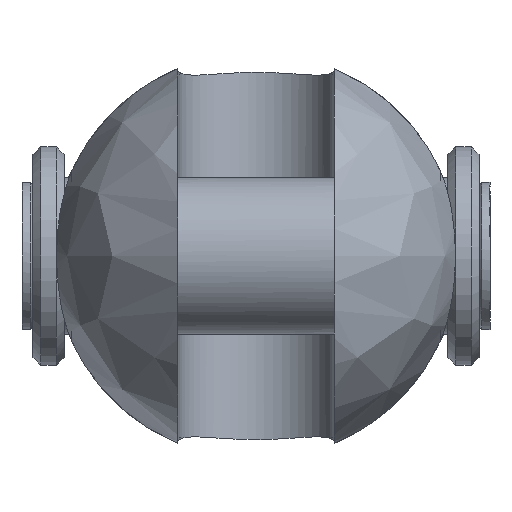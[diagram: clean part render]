
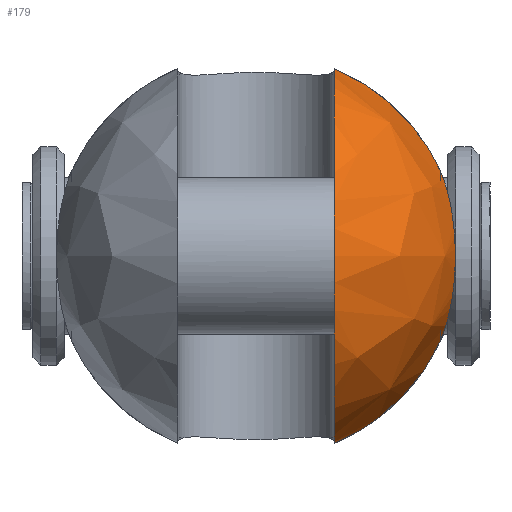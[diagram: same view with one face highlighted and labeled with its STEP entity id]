
A CAD part, left-side view. The second image highlights one B-rep face of the part: STEP entity #179.
In plain terms, the highlighted free-form (B-spline) face has degree [2, 2] with [9, 5] control points.
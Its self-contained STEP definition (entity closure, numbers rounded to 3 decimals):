
#179=ADVANCED_FACE('',(#320),#2417,.T.);
#320=FACE_OUTER_BOUND('',#481,.T.);
#481=EDGE_LOOP('',(#1190,#1191,#1192,#1193,#1194,#1195));
#1190=ORIENTED_EDGE('',*,*,#1579,.T.);
#1191=ORIENTED_EDGE('',*,*,#1601,.F.);
#1192=ORIENTED_EDGE('',*,*,#1617,.T.);
#1193=ORIENTED_EDGE('',*,*,#1619,.T.);
#1194=ORIENTED_EDGE('',*,*,#1618,.T.);
#1195=ORIENTED_EDGE('',*,*,#1595,.F.);
#1579=EDGE_CURVE('',#2249,#2248,#1979,.T.);
#1595=EDGE_CURVE('',#2249,#2261,#1989,.T.);
#1601=EDGE_CURVE('',#2266,#2248,#1990,.T.);
#1617=EDGE_CURVE('',#2266,#2273,#2000,.T.);
#1618=EDGE_CURVE('',#2274,#2261,#2001,.T.);
#1619=EDGE_CURVE('',#2273,#2274,#1786,.T.);
#1786=B_SPLINE_CURVE_WITH_KNOTS('',3,(#6066,#6067,#6068,#6069,#6070,#6071,
#6072,#6073,#6074,#6075,#6076,#6077,#6078,#6079),.UNSPECIFIED.,.F.,.F.,
(4,2,2,2,2,2,4),(-12.357,-11.17,-8.674,
-6.178,-3.683,-1.187,0.),.UNSPECIFIED.);
#1979=(
BOUNDED_CURVE()
B_SPLINE_CURVE(2,(#5899,#5900,#5901,#5902,#5903),.UNSPECIFIED.,.F.,.F.)
B_SPLINE_CURVE_WITH_KNOTS((3,2,3),(-37.699,-18.85,
0.),.UNSPECIFIED.)
CURVE()
GEOMETRIC_REPRESENTATION_ITEM()
RATIONAL_B_SPLINE_CURVE((1.,0.707,1.,0.707,1.))
REPRESENTATION_ITEM('')
);
#1989=(
BOUNDED_CURVE()
B_SPLINE_CURVE(2,(#5977,#5978,#5979),.UNSPECIFIED.,.F.,.F.)
B_SPLINE_CURVE_WITH_KNOTS((3,3),(0.,9.609),.UNSPECIFIED.)
CURVE()
GEOMETRIC_REPRESENTATION_ITEM()
RATIONAL_B_SPLINE_CURVE((1.,0.932,1.))
REPRESENTATION_ITEM('')
);
#1990=(
BOUNDED_CURVE()
B_SPLINE_CURVE(2,(#5998,#5999,#6000),.UNSPECIFIED.,.F.,.F.)
B_SPLINE_CURVE_WITH_KNOTS((3,3),(0.,9.609),.UNSPECIFIED.)
CURVE()
GEOMETRIC_REPRESENTATION_ITEM()
RATIONAL_B_SPLINE_CURVE((1.,0.932,1.))
REPRESENTATION_ITEM('')
);
#2000=(
BOUNDED_CURVE()
B_SPLINE_CURVE(2,(#6060,#6061,#6062),.UNSPECIFIED.,.F.,.F.)
B_SPLINE_CURVE_WITH_KNOTS((3,3),(-0.318,0.),.UNSPECIFIED.)
CURVE()
GEOMETRIC_REPRESENTATION_ITEM()
RATIONAL_B_SPLINE_CURVE((1.,1.,1.))
REPRESENTATION_ITEM('')
);
#2001=(
BOUNDED_CURVE()
B_SPLINE_CURVE(2,(#6063,#6064,#6065),.UNSPECIFIED.,.F.,.F.)
B_SPLINE_CURVE_WITH_KNOTS((3,3),(-0.318,0.),.UNSPECIFIED.)
CURVE()
GEOMETRIC_REPRESENTATION_ITEM()
RATIONAL_B_SPLINE_CURVE((1.,1.,1.))
REPRESENTATION_ITEM('')
);
#2248=VERTEX_POINT('',#5767);
#2249=VERTEX_POINT('',#5768);
#2261=VERTEX_POINT('',#5780);
#2266=VERTEX_POINT('',#5785);
#2273=VERTEX_POINT('',#5792);
#2274=VERTEX_POINT('',#5793);
#2417=(
BOUNDED_SURFACE()
B_SPLINE_SURFACE(2,2,((#5481,#5482,#5483,#5484,#5485),(#5486,#5487,#5488,
#5489,#5490),(#5491,#5492,#5493,#5494,#5495),(#5496,#5497,#5498,#5499,#5500),
(#5501,#5502,#5503,#5504,#5505),(#5506,#5507,#5508,#5509,#5510),(#5511,
#5512,#5513,#5514,#5515),(#5516,#5517,#5518,#5519,#5520),(#5521,#5522,#5523,
#5524,#5525)),.UNSPECIFIED.,.T.,.F.,.F.)
B_SPLINE_SURFACE_WITH_KNOTS((3,2,2,2,3),(3,2,3),(0.,1.571,3.142,
4.712,6.283),(-1.571,0.,1.571),
 .UNSPECIFIED.)
GEOMETRIC_REPRESENTATION_ITEM()
RATIONAL_B_SPLINE_SURFACE(((1.,0.707,1.,0.707,1.),
(0.707,0.5,0.707,0.5,0.707),(1.,0.707,
1.,0.707,1.),(0.707,0.5,0.707,0.5,0.707),
(1.,0.707,1.,0.707,1.),(0.707,0.5,0.707,
0.5,0.707),(1.,0.707,1.,0.707,1.),(0.707,
0.5,0.707,0.5,0.707),(1.,0.707,1.,0.707,
1.)))
REPRESENTATION_ITEM('')
SURFACE()
);
#5481=CARTESIAN_POINT('',(-18.5,0.,0.));
#5482=CARTESIAN_POINT('',(-18.5,13.,0.));
#5483=CARTESIAN_POINT('',(-5.5,13.,0.));
#5484=CARTESIAN_POINT('',(7.5,13.,0.));
#5485=CARTESIAN_POINT('',(7.5,0.,0.));
#5486=CARTESIAN_POINT('',(-18.5,0.,0.));
#5487=CARTESIAN_POINT('',(-18.5,13.,13.));
#5488=CARTESIAN_POINT('',(-5.5,13.,13.));
#5489=CARTESIAN_POINT('',(7.5,13.,13.));
#5490=CARTESIAN_POINT('',(7.5,0.,0.));
#5491=CARTESIAN_POINT('',(-18.5,0.,0.));
#5492=CARTESIAN_POINT('',(-18.5,0.,13.));
#5493=CARTESIAN_POINT('',(-5.5,0.,13.));
#5494=CARTESIAN_POINT('',(7.5,0.,13.));
#5495=CARTESIAN_POINT('',(7.5,0.,0.));
#5496=CARTESIAN_POINT('',(-18.5,0.,0.));
#5497=CARTESIAN_POINT('',(-18.5,-13.,13.));
#5498=CARTESIAN_POINT('',(-5.5,-13.,13.));
#5499=CARTESIAN_POINT('',(7.5,-13.,13.));
#5500=CARTESIAN_POINT('',(7.5,0.,0.));
#5501=CARTESIAN_POINT('',(-18.5,0.,0.));
#5502=CARTESIAN_POINT('',(-18.5,-13.,0.));
#5503=CARTESIAN_POINT('',(-5.5,-13.,0.));
#5504=CARTESIAN_POINT('',(7.5,-13.,0.));
#5505=CARTESIAN_POINT('',(7.5,0.,0.));
#5506=CARTESIAN_POINT('',(-18.5,0.,0.));
#5507=CARTESIAN_POINT('',(-18.5,-13.,-13.));
#5508=CARTESIAN_POINT('',(-5.5,-13.,-13.));
#5509=CARTESIAN_POINT('',(7.5,-13.,-13.));
#5510=CARTESIAN_POINT('',(7.5,0.,0.));
#5511=CARTESIAN_POINT('',(-18.5,0.,0.));
#5512=CARTESIAN_POINT('',(-18.5,0.,-13.));
#5513=CARTESIAN_POINT('',(-5.5,0.,-13.));
#5514=CARTESIAN_POINT('',(7.5,0.,-13.));
#5515=CARTESIAN_POINT('',(7.5,0.,0.));
#5516=CARTESIAN_POINT('',(-18.5,0.,0.));
#5517=CARTESIAN_POINT('',(-18.5,13.,-13.));
#5518=CARTESIAN_POINT('',(-5.5,13.,-13.));
#5519=CARTESIAN_POINT('',(7.5,13.,-13.));
#5520=CARTESIAN_POINT('',(7.5,0.,0.));
#5521=CARTESIAN_POINT('',(-18.5,0.,0.));
#5522=CARTESIAN_POINT('',(-18.5,13.,0.));
#5523=CARTESIAN_POINT('',(-5.5,13.,0.));
#5524=CARTESIAN_POINT('',(7.5,13.,0.));
#5525=CARTESIAN_POINT('',(7.5,0.,0.));
#5767=CARTESIAN_POINT('',(-5.5,-5.,-12.));
#5768=CARTESIAN_POINT('',(-5.5,-5.,12.));
#5780=CARTESIAN_POINT('',(-5.5,-11.779,5.5));
#5785=CARTESIAN_POINT('',(-5.5,-11.779,-5.5));
#5792=CARTESIAN_POINT('',(-5.818,-11.779,-5.491));
#5793=CARTESIAN_POINT('',(-5.818,-11.779,5.491));
#5899=CARTESIAN_POINT('',(-5.5,-5.,12.));
#5900=CARTESIAN_POINT('',(-17.5,-5.,12.));
#5901=CARTESIAN_POINT('',(-17.5,-5.,0.));
#5902=CARTESIAN_POINT('',(-17.5,-5.,-12.));
#5903=CARTESIAN_POINT('',(-5.5,-5.,-12.));
#5977=CARTESIAN_POINT('',(-5.5,-5.,12.));
#5978=CARTESIAN_POINT('',(-5.5,-9.649,10.063));
#5979=CARTESIAN_POINT('',(-5.5,-11.779,5.5));
#5998=CARTESIAN_POINT('',(-5.5,-11.779,-5.5));
#5999=CARTESIAN_POINT('',(-5.5,-9.649,-10.063));
#6000=CARTESIAN_POINT('',(-5.5,-5.,-12.));
#6060=CARTESIAN_POINT('',(-5.5,-11.779,-5.5));
#6061=CARTESIAN_POINT('',(-5.659,-11.779,-5.5));
#6062=CARTESIAN_POINT('',(-5.818,-11.779,-5.491));
#6063=CARTESIAN_POINT('',(-5.818,-11.779,5.491));
#6064=CARTESIAN_POINT('',(-5.659,-11.779,5.5));
#6065=CARTESIAN_POINT('',(-5.5,-11.779,5.5));
#6066=CARTESIAN_POINT('',(-5.818,-11.779,-5.491));
#6067=CARTESIAN_POINT('',(-6.077,-11.9,-5.217));
#6068=CARTESIAN_POINT('',(-6.314,-12.009,-4.926));
#6069=CARTESIAN_POINT('',(-6.968,-12.306,-4.004));
#6070=CARTESIAN_POINT('',(-7.358,-12.478,-3.251));
#6071=CARTESIAN_POINT('',(-7.874,-12.704,-1.645));
#6072=CARTESIAN_POINT('',(-8.,-12.757,-0.793));
#6073=CARTESIAN_POINT('',(-8.,-12.757,0.793));
#6074=CARTESIAN_POINT('',(-7.874,-12.704,1.645));
#6075=CARTESIAN_POINT('',(-7.358,-12.478,3.251));
#6076=CARTESIAN_POINT('',(-6.968,-12.306,4.004));
#6077=CARTESIAN_POINT('',(-6.314,-12.009,4.926));
#6078=CARTESIAN_POINT('',(-6.077,-11.9,5.217));
#6079=CARTESIAN_POINT('',(-5.818,-11.779,5.491));
